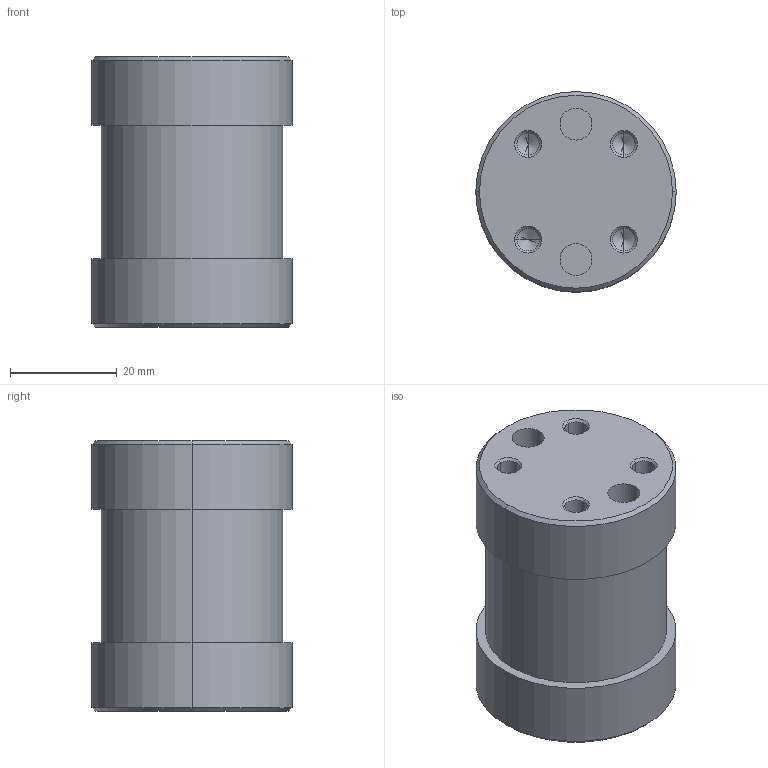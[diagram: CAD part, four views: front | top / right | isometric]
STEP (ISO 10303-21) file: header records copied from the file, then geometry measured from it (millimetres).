
FILE_DESCRIPTION (( 'STEP AP203' ), '1' );
FILE_NAME ('rst1-60 and 150 Nm.STEP', '2015-06-16T22:44:51', ( '' ), ( '' ), 'SwSTEP 2.0', 'SolidWorks 2013', '' );
FILE_SCHEMA (( 'CONFIG_CONTROL_DESIGN' ));
Length unit declared in the file: millimetre
Products named in the file (1): rst1-60 and 150 Nm
Bounding box: 37.6 x 37.6 x 50.8 mm (x, y, z)
Volume: 48548.8 mm3; surface area: 10471.3 mm2
Topology: 1 solids, 1 shells, 74 faces, 162 edges, 88 vertices
Faces by surface type: cone 36, cylinder 30, plane 8
Entity records: 1983 total; most frequent: DIRECTION 376, CARTESIAN_POINT 309, ORIENTED_EDGE 292, AXIS2_PLACEMENT_3D 155, EDGE_CURVE 146, VERTEX_POINT 88, EDGE_LOOP 88, CIRCLE 80
